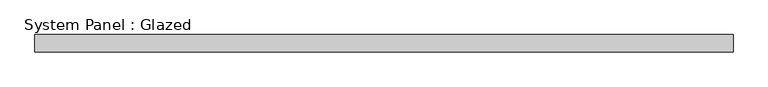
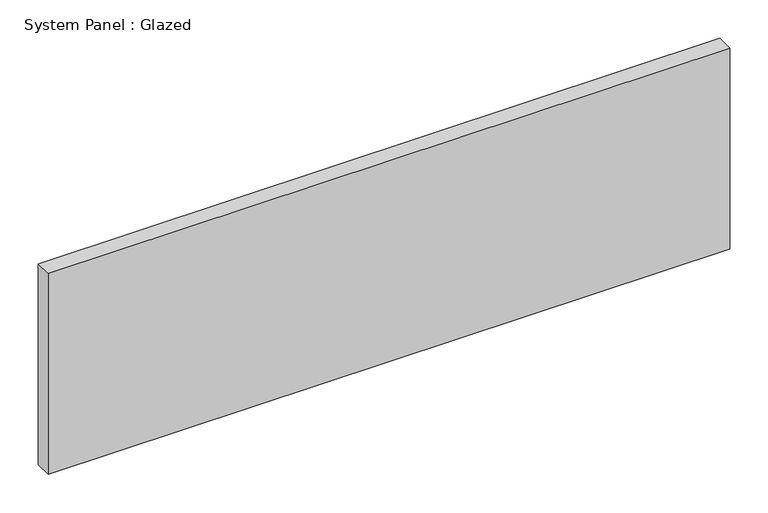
"""IFC4 building model written with IfcOpenShell, lengths in millimetres: plate geometry, System Panel : Glazed."""

from ifc_helpers import new_model, si_unit, origin, origin_with_axes, place, context, project, spatial, polyline, outline, extrude, source, transform, mapped, element, save


def system_panel_glazed_2923f65e(model_context):
    return source(origin(), model_context, "Body", "SweptSolid", [
        extrude(outline(polyline([(513.08, 19.05), (-513.08, 19.05), (-513.08, 44.45), (513.08, 44.45), (513.08, 19.05)])), origin_with_axes(), (0.0, 0.0, 1.0), 320.2027241),
    ])


if __name__ == "__main__":
    model = new_model("IFC4")
    model_context = context("Model", 3, world=origin())
    ifc_project = project(units=[si_unit("LENGTHUNIT", "METRE", prefix="MILLI")], contexts=[model_context])
    site = spatial("IfcSite", under=ifc_project)
    building = spatial("IfcBuilding", under=site)
    placement = place(None, origin())
    system_panel_glazed_shape = system_panel_glazed_2923f65e(model_context)
    element("IfcPlate", 1, ObjectType="System Panel : Glazed", at=placement, inside=building, context=model_context, shape_type="MappedRepresentation", body=[
        mapped(system_panel_glazed_shape, transform((0.0, 0.0, 0.0), x_axis=(1.0, 0.0, 0.0), y_axis=(0.0, 1.0, 0.0), z_axis=(0.0, 0.0, 1.0))),
    ])
    save(model, "model.ifc")
